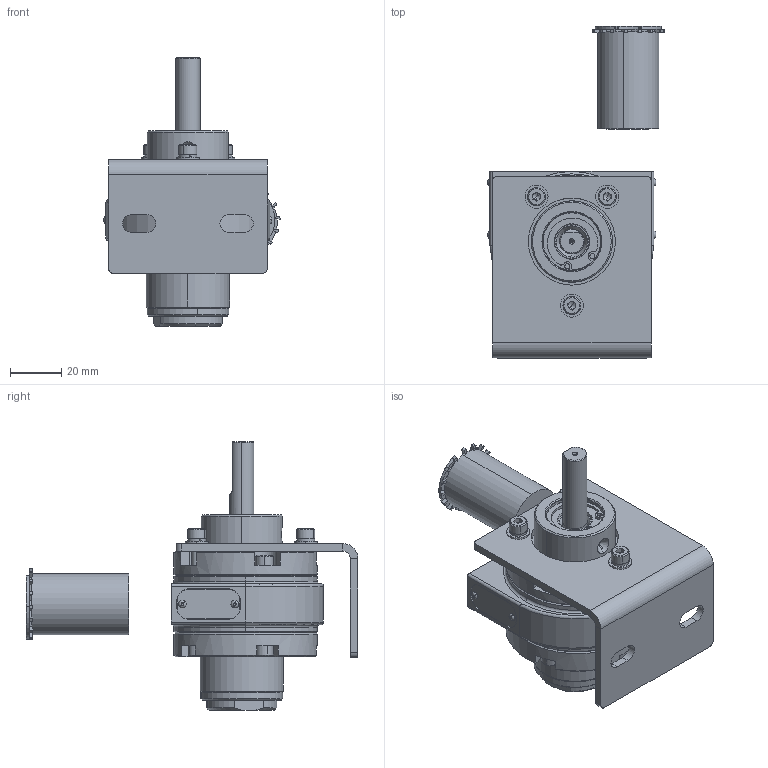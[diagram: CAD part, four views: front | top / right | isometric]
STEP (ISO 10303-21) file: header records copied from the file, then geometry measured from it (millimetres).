
FILE_DESCRIPTION (( 'STEP AP214' ), '1' );
FILE_NAME ('1VMS (Foot)_Solid 29-07-25.STEP', '2025-07-29T08:48:20', ( '' ), ( '' ), 'SwSTEP 2.0', 'SolidWorks 2017', '' );
FILE_SCHEMA (( 'AUTOMOTIVE_DESIGN' ));
Length unit declared in the file: millimetre
Products named in the file (2): 1VMS (Foot)_Solid 29-07-25
Bounding box: 68.79 x 129.63 x 104.93 mm (x, y, z)
Volume: 124078.9 mm3; surface area: 82762.3 mm2
Topology: 48 solids, 49 shells, 1382 faces, 3295 edges, 2031 vertices
Faces by surface type: plane 631, cylinder 398, cone 258, torus 95
Entity records: 57847 total; most frequent: CARTESIAN_POINT 7886, DIRECTION 7385, ORIENTED_EDGE 6704, EDGE_CURVE 3352, AXIS2_PLACEMENT_3D 2764, VERTEX_POINT 2091, VECTOR 1857, LINE 1857
